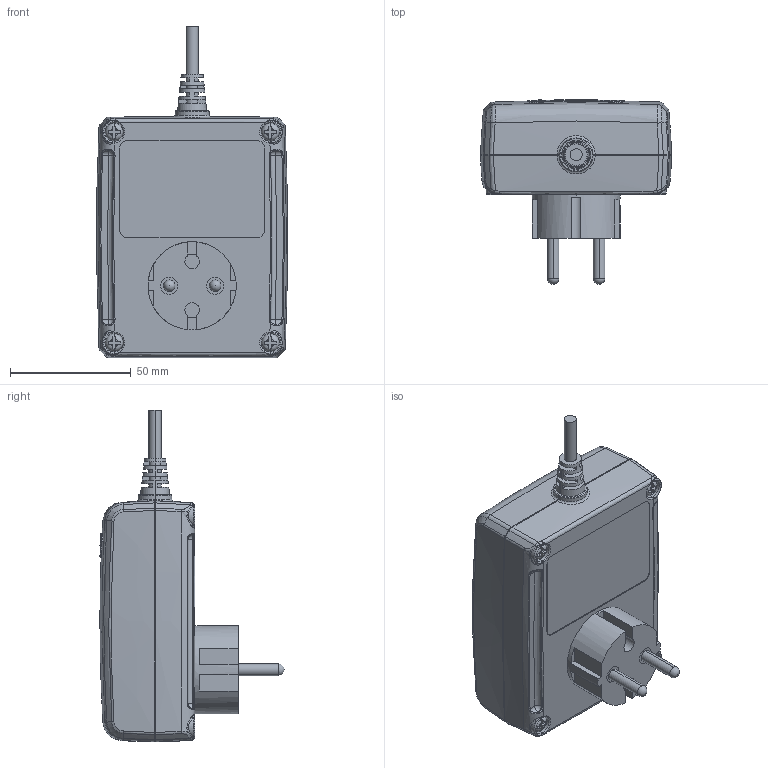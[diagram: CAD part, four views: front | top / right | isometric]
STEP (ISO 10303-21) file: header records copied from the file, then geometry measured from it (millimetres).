
FILE_DESCRIPTION (( 'STEP AP203' ), '1' );
FILE_NAME ('TP8.STEP', '2014-01-16T03:53:08', ( 'stanley' ), ( '' ), 'SwSTEP 2.0', 'SolidWorks 2010', '' );
FILE_SCHEMA (( 'CONFIG_CONTROL_DESIGN' ));
Length unit declared in the file: millimetre
Products named in the file (1): TP8
Bounding box: 79.04 x 76.2 x 137.38 mm (x, y, z)
Volume: 304747.4 mm3; surface area: 32675.6 mm2
Topology: 1 solids, 6 shells, 1138 faces, 3158 edges, 2053 vertices
Faces by surface type: plane 774, bspline 159, cylinder 130, sphere 30, torus 30, cone 15
Entity records: 53195 total; most frequent: CARTESIAN_POINT 24264, ORIENTED_EDGE 6274, DIRECTION 6070, EDGE_CURVE 3137, AXIS2_PLACEMENT_3D 2519, VERTEX_POINT 2047, CIRCLE 1539, EDGE_LOOP 1174
